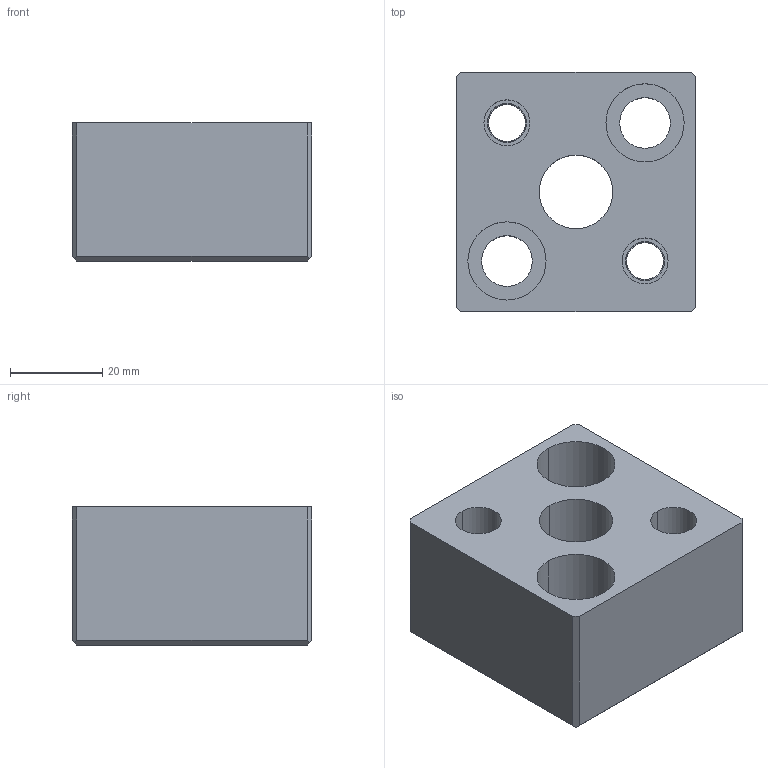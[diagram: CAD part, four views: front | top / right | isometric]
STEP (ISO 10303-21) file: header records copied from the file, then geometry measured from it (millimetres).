
FILE_DESCRIPTION(/* description */ (''),/* implementation_level */ '2;1');
FILE_NAME(/* name */ '3d_sa-an16_05037_r00.stp',/* time_stamp */ '2011-01-10T14:11:30+09:00',/* author */ ('MISUMI'),/* organization */ (''),/* preprocessor_version */ 'ST-DEVELOPER v11',/* originating_system */ 'UGS - NX 5.0',/* authorisation */ '');
FILE_SCHEMA (('CONFIG_CONTROL_DESIGN'));
Length unit declared in the file: millimetre
Products named in the file (1): 3d_sa-an16_05037_r00
Bounding box: 52 x 52 x 30 mm (x, y, z)
Volume: 60773.5 mm3; surface area: 16312.8 mm2
Topology: 1 solids, 1 shells, 47 faces, 112 edges, 74 vertices
Faces by surface type: cylinder 24, plane 21, cone 2
Entity records: 1486 total; most frequent: DIRECTION 258, CARTESIAN_POINT 234, ORIENTED_EDGE 224, EDGE_CURVE 112, AXIS2_PLACEMENT_3D 98, VERTEX_POINT 74, EDGE_LOOP 64, LINE 62
